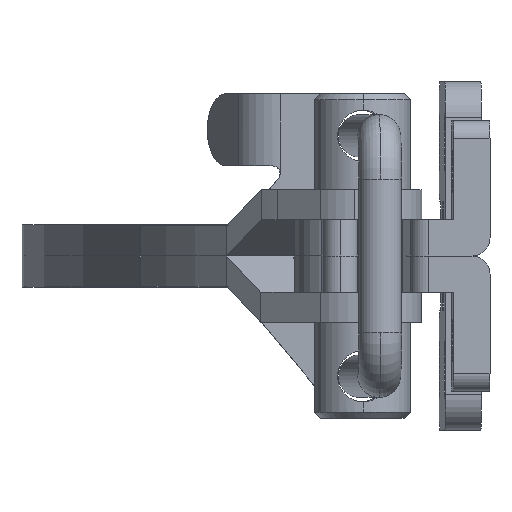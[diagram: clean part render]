
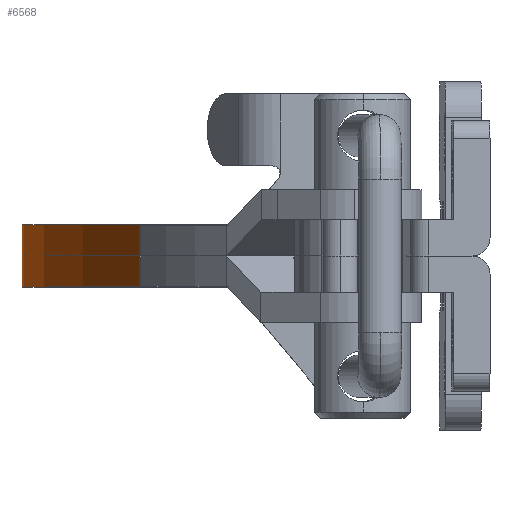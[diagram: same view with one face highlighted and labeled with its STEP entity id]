
A CAD part, left-side view. The second image highlights one B-rep face of the part: STEP entity #6568.
In plain terms, the highlighted cylindrical face has radius 160.2 mm (diameter 320.4 mm), a partial arc.
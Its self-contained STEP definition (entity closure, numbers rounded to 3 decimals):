
#21 = AXIS2_PLACEMENT_3D ( 'NONE', #5951, #4716, #5976 ) ;
#238 = LINE ( 'NONE', #6870, #6020 ) ;
#1002 = LINE ( 'NONE', #5533, #4315 ) ;
#1157 = VERTEX_POINT ( 'NONE', #2392 ) ;
#1177 = EDGE_CURVE ( 'NONE', #1157, #6708, #1002, .T. ) ;
#1356 = CIRCLE ( 'NONE', #5837, 160.2 ) ;
#1869 = CIRCLE ( 'NONE', #2001, 160.2 ) ;
#1951 = CYLINDRICAL_SURFACE ( 'NONE', #21, 160.2 ) ;
#2001 = AXIS2_PLACEMENT_3D ( 'NONE', #7538, #3838, #6757 ) ;
#2218 = EDGE_CURVE ( 'NONE', #7153, #5076, #238, .T. ) ;
#2279 = ORIENTED_EDGE ( 'NONE', *, *, #1177, .F. ) ;
#2392 = CARTESIAN_POINT ( 'NONE',  ( 72.588, 63.831, -5.2 ) ) ;
#3131 = DIRECTION ( 'NONE',  ( 0., 0., 1. ) ) ;
#3156 = DIRECTION ( 'NONE',  ( 0., 0., 1. ) ) ;
#3328 = CARTESIAN_POINT ( 'NONE',  ( -11.511, 36.102, 5.2 ) ) ;
#3502 = ORIENTED_EDGE ( 'NONE', *, *, #5589, .T. ) ;
#3675 = DIRECTION ( 'NONE',  ( 0., 0., 1. ) ) ;
#3838 = DIRECTION ( 'NONE',  ( 0., 0., 1. ) ) ;
#4000 = ORIENTED_EDGE ( 'NONE', *, *, #2218, .T. ) ;
#4315 = VECTOR ( 'NONE', #3131, 1000. ) ;
#4716 = DIRECTION ( 'NONE',  ( 0., 0., 1. ) ) ;
#4818 = EDGE_CURVE ( 'NONE', #6708, #5076, #1869, .T. ) ;
#5076 = VERTEX_POINT ( 'NONE', #3328 ) ;
#5130 = CARTESIAN_POINT ( 'NONE',  ( -11.511, 36.102, -5.2 ) ) ;
#5533 = CARTESIAN_POINT ( 'NONE',  ( 72.588, 63.831, -5.2 ) ) ;
#5589 = EDGE_CURVE ( 'NONE', #1157, #7153, #1356, .T. ) ;
#5822 = FACE_OUTER_BOUND ( 'NONE', #6514, .T. ) ;
#5837 = AXIS2_PLACEMENT_3D ( 'NONE', #7370, #3675, #8004 ) ;
#5951 = CARTESIAN_POINT ( 'NONE',  ( 78.75, -96.25, -5.2 ) ) ;
#5976 = DIRECTION ( 'NONE',  ( 1., 0., 0. ) ) ;
#6020 = VECTOR ( 'NONE', #3156, 1000. ) ;
#6514 = EDGE_LOOP ( 'NONE', ( #6807, #2279, #3502, #4000 ) ) ;
#6568 = ADVANCED_FACE ( 'NONE', ( #5822 ), #1951, .T. ) ;
#6708 = VERTEX_POINT ( 'NONE', #8017 ) ;
#6757 = DIRECTION ( 'NONE',  ( 1., 0., 0. ) ) ;
#6807 = ORIENTED_EDGE ( 'NONE', *, *, #4818, .F. ) ;
#6870 = CARTESIAN_POINT ( 'NONE',  ( -11.511, 36.102, -5.2 ) ) ;
#7153 = VERTEX_POINT ( 'NONE', #5130 ) ;
#7370 = CARTESIAN_POINT ( 'NONE',  ( 78.75, -96.25, -5.2 ) ) ;
#7538 = CARTESIAN_POINT ( 'NONE',  ( 78.75, -96.25, 5.2 ) ) ;
#8004 = DIRECTION ( 'NONE',  ( 1., 0., 0. ) ) ;
#8017 = CARTESIAN_POINT ( 'NONE',  ( 72.588, 63.831, 5.2 ) ) ;
